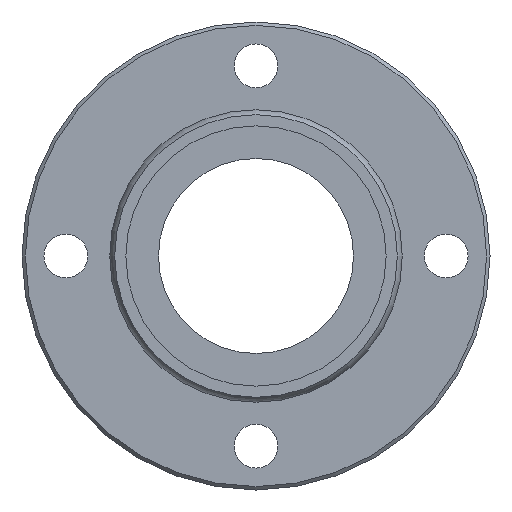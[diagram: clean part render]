
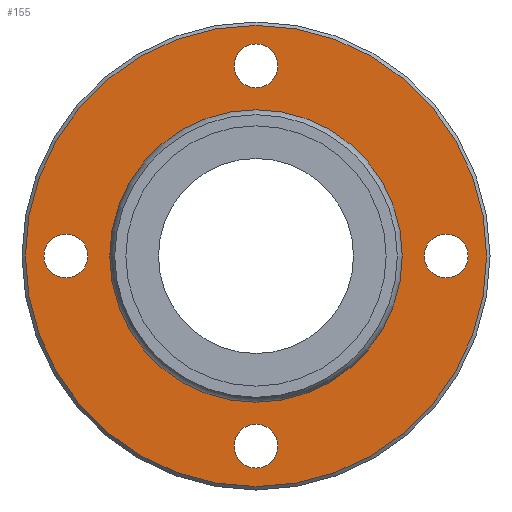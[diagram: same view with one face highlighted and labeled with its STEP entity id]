
A CAD part, left-side view. The second image highlights one B-rep face of the part: STEP entity #155.
In plain terms, the highlighted planar face has unit normal (-1, 0, 0).
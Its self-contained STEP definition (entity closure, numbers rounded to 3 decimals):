
#60=CARTESIAN_POINT('',(13.,0.,47.3));
#61=VERTEX_POINT('',#60);
#62=CARTESIAN_POINT('',(13.,0.0,0.0));
#63=DIRECTION('',(1.0,0.0,0.0));
#64=DIRECTION('',(0.0,0.0,-1.0));
#65=AXIS2_PLACEMENT_3D('',#62,#63,#64);
#66=CIRCLE('',#65,47.3);
#67=EDGE_CURVE('',#61,#61,#66,.T.);
#92=CARTESIAN_POINT('',(13.,0.0,38.834));
#93=DIRECTION('',(-1.0,0.0,0.0));
#94=DIRECTION('',(0.0,0.0,1.0));
#95=AXIS2_PLACEMENT_3D('',#92,#93,#94);
#96=PLANE('',#95);
#97=ORIENTED_EDGE('',*,*,#67,.F.);
#98=EDGE_LOOP('',(#97));
#99=FACE_OUTER_BOUND('',#98,.T.);
#100=CARTESIAN_POINT('',(13.,0.0,29.668));
#101=VERTEX_POINT('',#100);
#102=CARTESIAN_POINT('',(13.,0.0,0.0));
#103=DIRECTION('',(-1.0,0.0,0.0));
#104=DIRECTION('',(0.0,0.0,1.0));
#105=AXIS2_PLACEMENT_3D('',#102,#103,#104);
#106=CIRCLE('',#105,29.668);
#107=EDGE_CURVE('',#101,#101,#106,.T.);
#108=ORIENTED_EDGE('',*,*,#107,.F.);
#109=EDGE_LOOP('',(#108));
#110=FACE_BOUND('',#109,.T.);
#111=CARTESIAN_POINT('',(13.,34.5,0.));
#112=VERTEX_POINT('',#111);
#113=CARTESIAN_POINT('',(13.,39.0,0.));
#114=DIRECTION('',(1.0,0.0,0.0));
#115=DIRECTION('',(0.0,1.0,0.0));
#116=AXIS2_PLACEMENT_3D('',#113,#114,#115);
#117=CIRCLE('',#116,4.5);
#118=EDGE_CURVE('',#112,#112,#117,.T.);
#119=ORIENTED_EDGE('',*,*,#118,.T.);
#120=EDGE_LOOP('',(#119));
#121=FACE_BOUND('',#120,.T.);
#122=CARTESIAN_POINT('',(13.,-43.5,0.));
#123=VERTEX_POINT('',#122);
#124=CARTESIAN_POINT('',(13.,-39.0,0.0));
#125=DIRECTION('',(1.0,0.0,0.0));
#126=DIRECTION('',(0.0,1.0,0.0));
#127=AXIS2_PLACEMENT_3D('',#124,#125,#126);
#128=CIRCLE('',#127,4.5);
#129=EDGE_CURVE('',#123,#123,#128,.T.);
#130=ORIENTED_EDGE('',*,*,#129,.T.);
#131=EDGE_LOOP('',(#130));
#132=FACE_BOUND('',#131,.T.);
#133=CARTESIAN_POINT('',(13.,-4.5,39.0));
#134=VERTEX_POINT('',#133);
#135=CARTESIAN_POINT('',(13.,0.,39.0));
#136=DIRECTION('',(1.0,0.0,0.0));
#137=DIRECTION('',(0.0,1.0,0.0));
#138=AXIS2_PLACEMENT_3D('',#135,#136,#137);
#139=CIRCLE('',#138,4.5);
#140=EDGE_CURVE('',#134,#134,#139,.T.);
#141=ORIENTED_EDGE('',*,*,#140,.T.);
#142=EDGE_LOOP('',(#141));
#143=FACE_BOUND('',#142,.T.);
#144=CARTESIAN_POINT('',(13.,-4.5,-39.0));
#145=VERTEX_POINT('',#144);
#146=CARTESIAN_POINT('',(13.,0.,-39.0));
#147=DIRECTION('',(1.0,0.0,0.0));
#148=DIRECTION('',(0.0,1.0,0.0));
#149=AXIS2_PLACEMENT_3D('',#146,#147,#148);
#150=CIRCLE('',#149,4.5);
#151=EDGE_CURVE('',#145,#145,#150,.T.);
#152=ORIENTED_EDGE('',*,*,#151,.T.);
#153=EDGE_LOOP('',(#152));
#154=FACE_BOUND('',#153,.T.);
#155=ADVANCED_FACE('',(#99,#110,#121,#132,#143,#154),#96,.T.);
